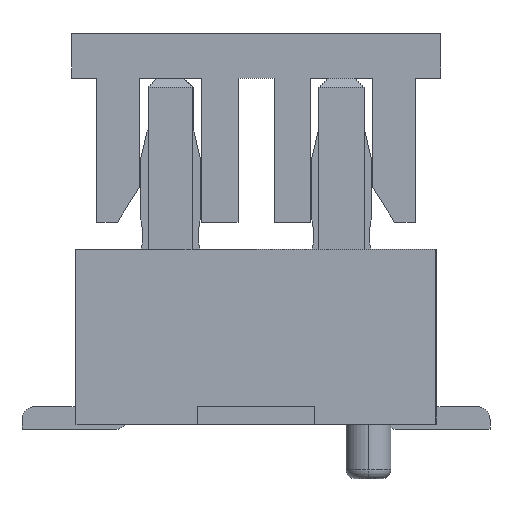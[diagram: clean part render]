
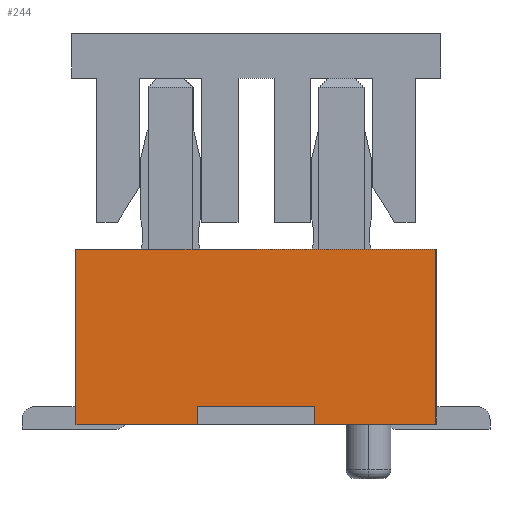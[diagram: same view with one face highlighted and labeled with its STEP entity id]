
A CAD part, left-side view. The second image highlights one B-rep face of the part: STEP entity #244.
In plain terms, the highlighted planar face has unit normal (-1, 0, 0).
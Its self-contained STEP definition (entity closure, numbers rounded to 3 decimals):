
#173=CARTESIAN_POINT('Axis2P3D Location',(-3.85,0.,0.)) ;
#178=CARTESIAN_POINT('Line Origine',(-3.85,0.65,0.1)) ;
#182=CARTESIAN_POINT('Vertex',(-3.85,0.65,0.)) ;
#184=CARTESIAN_POINT('Vertex',(-3.85,0.65,0.2)) ;
#187=CARTESIAN_POINT('Line Origine',(-3.85,0.,0.2)) ;
#191=CARTESIAN_POINT('Vertex',(-3.85,-0.65,0.2)) ;
#194=CARTESIAN_POINT('Line Origine',(-3.85,-0.65,0.1)) ;
#198=CARTESIAN_POINT('Vertex',(-3.85,-0.65,0.)) ;
#201=CARTESIAN_POINT('Line Origine',(-3.85,-1.325,0.)) ;
#205=CARTESIAN_POINT('Vertex',(-3.85,-2.,0.)) ;
#208=CARTESIAN_POINT('Line Origine',(-3.85,-2.,0.975)) ;
#212=CARTESIAN_POINT('Vertex',(-3.85,-2.,1.95)) ;
#215=CARTESIAN_POINT('Line Origine',(-3.85,0.,1.95)) ;
#219=CARTESIAN_POINT('Vertex',(-3.85,2.,1.95)) ;
#222=CARTESIAN_POINT('Line Origine',(-3.85,2.,0.975)) ;
#226=CARTESIAN_POINT('Vertex',(-3.85,2.,0.)) ;
#229=CARTESIAN_POINT('Line Origine',(-3.85,1.325,0.)) ;
#174=DIRECTION('Axis2P3D Direction',(1.,0.,0.)) ;
#175=DIRECTION('Axis2P3D XDirection',(0.,1.,0.)) ;
#179=DIRECTION('Vector Direction',(0.,0.,1.)) ;
#188=DIRECTION('Vector Direction',(0.,1.,0.)) ;
#195=DIRECTION('Vector Direction',(0.,0.,1.)) ;
#202=DIRECTION('Vector Direction',(0.,1.,0.)) ;
#209=DIRECTION('Vector Direction',(0.,0.,-1.)) ;
#216=DIRECTION('Vector Direction',(0.,1.,0.)) ;
#223=DIRECTION('Vector Direction',(0.,0.,-1.)) ;
#230=DIRECTION('Vector Direction',(0.,1.,0.)) ;
#176=AXIS2_PLACEMENT_3D('Plane Axis2P3D',#173,#174,#175) ;
#235=ORIENTED_EDGE('',*,*,#186,.T.) ;
#236=ORIENTED_EDGE('',*,*,#193,.F.) ;
#237=ORIENTED_EDGE('',*,*,#200,.F.) ;
#238=ORIENTED_EDGE('',*,*,#207,.F.) ;
#239=ORIENTED_EDGE('',*,*,#214,.F.) ;
#240=ORIENTED_EDGE('',*,*,#221,.F.) ;
#241=ORIENTED_EDGE('',*,*,#228,.F.) ;
#242=ORIENTED_EDGE('',*,*,#233,.F.) ;
#180=VECTOR('Line Direction',#179,1.) ;
#189=VECTOR('Line Direction',#188,1.) ;
#196=VECTOR('Line Direction',#195,1.) ;
#203=VECTOR('Line Direction',#202,1.) ;
#210=VECTOR('Line Direction',#209,1.) ;
#217=VECTOR('Line Direction',#216,1.) ;
#224=VECTOR('Line Direction',#223,1.) ;
#231=VECTOR('Line Direction',#230,1.) ;
#244=ADVANCED_FACE('\X2\96F64EF651E04F554F53\X0\',(#243),#177,.F.) ;
#186=EDGE_CURVE('',#183,#185,#181,.T.) ;
#193=EDGE_CURVE('',#192,#185,#190,.T.) ;
#200=EDGE_CURVE('',#199,#192,#197,.T.) ;
#207=EDGE_CURVE('',#206,#199,#204,.T.) ;
#214=EDGE_CURVE('',#213,#206,#211,.T.) ;
#221=EDGE_CURVE('',#220,#213,#218,.F.) ;
#228=EDGE_CURVE('',#227,#220,#225,.F.) ;
#233=EDGE_CURVE('',#183,#227,#232,.T.) ;
#234=EDGE_LOOP('',(#235,#236,#237,#238,#239,#240,#241,#242)) ;
#243=FACE_OUTER_BOUND('',#234,.T.) ;
#181=LINE('Line',#178,#180) ;
#190=LINE('Line',#187,#189) ;
#197=LINE('Line',#194,#196) ;
#204=LINE('Line',#201,#203) ;
#211=LINE('Line',#208,#210) ;
#218=LINE('Line',#215,#217) ;
#225=LINE('Line',#222,#224) ;
#232=LINE('Line',#229,#231) ;
#177=PLANE('Plane',#176) ;
#183=VERTEX_POINT('',#182) ;
#185=VERTEX_POINT('',#184) ;
#192=VERTEX_POINT('',#191) ;
#199=VERTEX_POINT('',#198) ;
#206=VERTEX_POINT('',#205) ;
#213=VERTEX_POINT('',#212) ;
#220=VERTEX_POINT('',#219) ;
#227=VERTEX_POINT('',#226) ;
